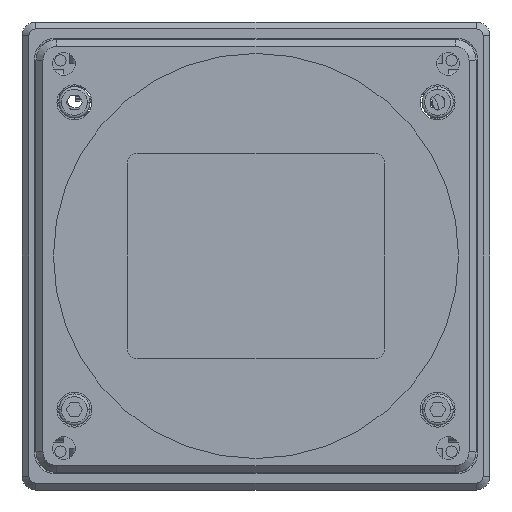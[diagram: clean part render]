
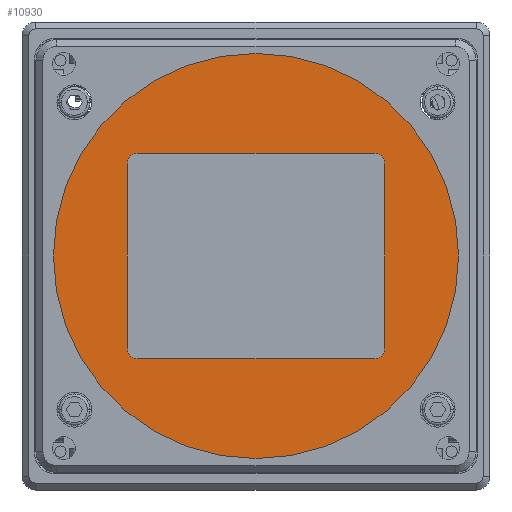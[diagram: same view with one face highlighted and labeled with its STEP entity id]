
A CAD part, front view. The second image highlights one B-rep face of the part: STEP entity #10930.
In plain terms, the highlighted planar face has unit normal (0, -1, 0).
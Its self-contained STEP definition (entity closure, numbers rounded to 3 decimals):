
#275 = CIRCLE ( 'NONE', #6151, 1.5 ) ;
#957 = CIRCLE ( 'NONE', #6990, 1.5 ) ;
#1053 = CARTESIAN_POINT ( 'NONE',  ( -10.498, -46.855, 209.983 ) ) ;
#1567 = DIRECTION ( 'NONE',  ( 0., 0., 1. ) ) ;
#1855 = VERTEX_POINT ( 'NONE', #37862 ) ;
#1912 = CARTESIAN_POINT ( 'NONE',  ( -28.948, -46.855, 196.783 ) ) ;
#2167 = CIRCLE ( 'NONE', #24981, 1.5 ) ;
#2269 = VECTOR ( 'NONE', #9265, 1000. ) ;
#2372 = CARTESIAN_POINT ( 'NONE',  ( -27.448, -46.855, 195.283 ) ) ;
#3226 = DIRECTION ( 'NONE',  ( 0., 1., 0. ) ) ;
#3343 = EDGE_CURVE ( 'NONE', #17246, #38988, #19494, .T. ) ;
#4037 = EDGE_CURVE ( 'NONE', #6072, #33547, #2167, .T. ) ;
#4878 = ORIENTED_EDGE ( 'NONE', *, *, #4037, .T. ) ;
#5010 = VERTEX_POINT ( 'NONE', #1912 ) ;
#5016 = CIRCLE ( 'NONE', #26092, 1.5 ) ;
#5101 = CARTESIAN_POINT ( 'NONE',  ( 6.452, -46.855, 195.283 ) ) ;
#6072 = VERTEX_POINT ( 'NONE', #14961 ) ;
#6151 = AXIS2_PLACEMENT_3D ( 'NONE', #31370, #31644, #16712 ) ;
#6517 = DIRECTION ( 'NONE',  ( -1., 0., 0. ) ) ;
#6990 = AXIS2_PLACEMENT_3D ( 'NONE', #9648, #7606, #1567 ) ;
#7606 = DIRECTION ( 'NONE',  ( 0., 1., 0. ) ) ;
#7727 = CIRCLE ( 'NONE', #12701, 29. ) ;
#7995 = CARTESIAN_POINT ( 'NONE',  ( -27.448, -46.855, 224.683 ) ) ;
#8453 = FACE_BOUND ( 'NONE', #17837, .T. ) ;
#8640 = EDGE_CURVE ( 'NONE', #28834, #28314, #34953, .T. ) ;
#8994 = CARTESIAN_POINT ( 'NONE',  ( 7.952, -46.855, 196.783 ) ) ;
#9265 = DIRECTION ( 'NONE',  ( 0., 0., -1. ) ) ;
#9648 = CARTESIAN_POINT ( 'NONE',  ( -27.448, -46.855, 196.783 ) ) ;
#10434 = LINE ( 'NONE', #27520, #2269 ) ;
#10930 = ADVANCED_FACE ( 'NONE', ( #8453, #17558 ), #11532, .T. ) ;
#11331 = VECTOR ( 'NONE', #6517, 1000. ) ;
#11423 = CARTESIAN_POINT ( 'NONE',  ( -27.448, -46.855, 223.183 ) ) ;
#11532 = PLANE ( 'NONE',  #38818 ) ;
#11636 = DIRECTION ( 'NONE',  ( 0., -1., 0. ) ) ;
#12158 = CARTESIAN_POINT ( 'NONE',  ( 7.952, -46.855, 223.183 ) ) ;
#12701 = AXIS2_PLACEMENT_3D ( 'NONE', #29891, #11636, #15373 ) ;
#14961 = CARTESIAN_POINT ( 'NONE',  ( -28.948, -46.855, 223.183 ) ) ;
#15221 = EDGE_CURVE ( 'NONE', #17246, #5010, #957, .T. ) ;
#15373 = DIRECTION ( 'NONE',  ( 0., 0., 1. ) ) ;
#15447 = DIRECTION ( 'NONE',  ( 0., 0., 1. ) ) ;
#16405 = ORIENTED_EDGE ( 'NONE', *, *, #8640, .F. ) ;
#16559 = CARTESIAN_POINT ( 'NONE',  ( -10.498, -46.855, 180.983 ) ) ;
#16712 = DIRECTION ( 'NONE',  ( 0., 0., 1. ) ) ;
#16803 = EDGE_CURVE ( 'NONE', #6072, #5010, #10434, .T. ) ;
#17246 = VERTEX_POINT ( 'NONE', #2372 ) ;
#17558 = FACE_OUTER_BOUND ( 'NONE', #19941, .T. ) ;
#17837 = EDGE_LOOP ( 'NONE', ( #19394, #4878, #37047, #27518, #16405, #36169, #31831, #35527 ) ) ;
#18486 = DIRECTION ( 'NONE',  ( 0., 0., 1. ) ) ;
#19075 = EDGE_CURVE ( 'NONE', #1855, #28314, #5016, .T. ) ;
#19394 = ORIENTED_EDGE ( 'NONE', *, *, #16803, .F. ) ;
#19494 = LINE ( 'NONE', #31753, #27599 ) ;
#19708 = EDGE_CURVE ( 'NONE', #28834, #38988, #275, .T. ) ;
#19863 = CARTESIAN_POINT ( 'NONE',  ( -10.498, -46.855, 238.983 ) ) ;
#19941 = EDGE_LOOP ( 'NONE', ( #23908, #35064 ) ) ;
#21603 = EDGE_CURVE ( 'NONE', #26478, #29469, #38839, .T. ) ;
#23351 = CARTESIAN_POINT ( 'NONE',  ( -10.498, -46.855, 209.983 ) ) ;
#23908 = ORIENTED_EDGE ( 'NONE', *, *, #32702, .T. ) ;
#24328 = CARTESIAN_POINT ( 'NONE',  ( 7.952, -46.855, 209.983 ) ) ;
#24981 = AXIS2_PLACEMENT_3D ( 'NONE', #11423, #26732, #32245 ) ;
#25487 = DIRECTION ( 'NONE',  ( 0., -1., 0. ) ) ;
#25596 = LINE ( 'NONE', #34328, #11331 ) ;
#26092 = AXIS2_PLACEMENT_3D ( 'NONE', #33849, #3226, #18486 ) ;
#26430 = DIRECTION ( 'NONE',  ( 0., 0., 1. ) ) ;
#26478 = VERTEX_POINT ( 'NONE', #16559 ) ;
#26732 = DIRECTION ( 'NONE',  ( 0., 1., 0. ) ) ;
#27518 = ORIENTED_EDGE ( 'NONE', *, *, #19075, .T. ) ;
#27520 = CARTESIAN_POINT ( 'NONE',  ( -28.948, -46.855, 209.983 ) ) ;
#27599 = VECTOR ( 'NONE', #37796, 1000. ) ;
#27930 = DIRECTION ( 'NONE',  ( 0., 0., 1. ) ) ;
#28314 = VERTEX_POINT ( 'NONE', #12158 ) ;
#28834 = VERTEX_POINT ( 'NONE', #8994 ) ;
#29469 = VERTEX_POINT ( 'NONE', #19863 ) ;
#29891 = CARTESIAN_POINT ( 'NONE',  ( -10.498, -46.855, 209.983 ) ) ;
#31370 = CARTESIAN_POINT ( 'NONE',  ( 6.452, -46.855, 196.783 ) ) ;
#31644 = DIRECTION ( 'NONE',  ( 0., 1., 0. ) ) ;
#31753 = CARTESIAN_POINT ( 'NONE',  ( -10.498, -46.855, 195.283 ) ) ;
#31831 = ORIENTED_EDGE ( 'NONE', *, *, #3343, .F. ) ;
#32245 = DIRECTION ( 'NONE',  ( 0., 0., 1. ) ) ;
#32702 = EDGE_CURVE ( 'NONE', #29469, #26478, #7727, .T. ) ;
#32892 = DIRECTION ( 'NONE',  ( 0., -1., 0. ) ) ;
#33547 = VERTEX_POINT ( 'NONE', #7995 ) ;
#33849 = CARTESIAN_POINT ( 'NONE',  ( 6.452, -46.855, 223.183 ) ) ;
#34328 = CARTESIAN_POINT ( 'NONE',  ( -10.498, -46.855, 224.683 ) ) ;
#34953 = LINE ( 'NONE', #24328, #37339 ) ;
#35064 = ORIENTED_EDGE ( 'NONE', *, *, #21603, .T. ) ;
#35527 = ORIENTED_EDGE ( 'NONE', *, *, #15221, .T. ) ;
#36169 = ORIENTED_EDGE ( 'NONE', *, *, #19708, .T. ) ;
#36418 = EDGE_CURVE ( 'NONE', #1855, #33547, #25596, .T. ) ;
#37047 = ORIENTED_EDGE ( 'NONE', *, *, #36418, .F. ) ;
#37339 = VECTOR ( 'NONE', #15447, 1000. ) ;
#37796 = DIRECTION ( 'NONE',  ( 1., 0., 0. ) ) ;
#37862 = CARTESIAN_POINT ( 'NONE',  ( 6.452, -46.855, 224.683 ) ) ;
#38489 = AXIS2_PLACEMENT_3D ( 'NONE', #1053, #25487, #27930 ) ;
#38818 = AXIS2_PLACEMENT_3D ( 'NONE', #23351, #32892, #26430 ) ;
#38839 = CIRCLE ( 'NONE', #38489, 29. ) ;
#38988 = VERTEX_POINT ( 'NONE', #5101 ) ;
